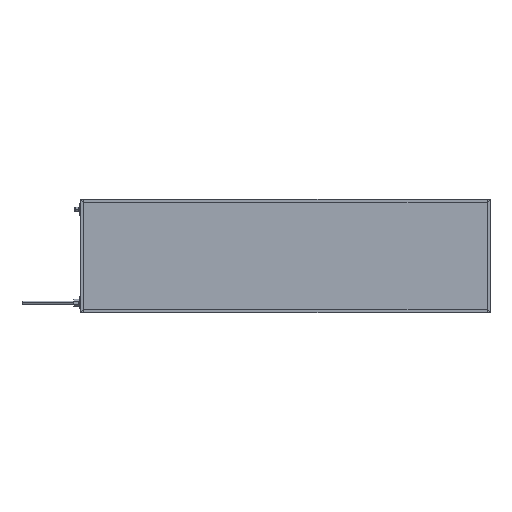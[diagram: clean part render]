
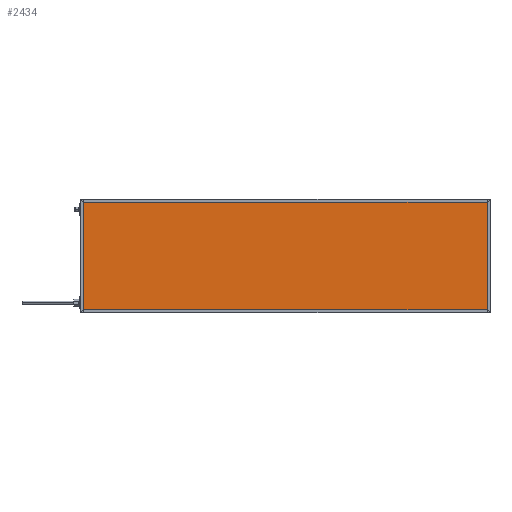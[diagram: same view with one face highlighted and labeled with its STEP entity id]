
A CAD part, top view. The second image highlights one B-rep face of the part: STEP entity #2434.
In plain terms, the highlighted planar face has unit normal (0, 0, 1).
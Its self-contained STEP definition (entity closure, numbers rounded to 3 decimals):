
#595 = VECTOR ( 'NONE', #906, 1000. ) ;
#906 = DIRECTION ( 'NONE',  ( 1., 0., 0. ) ) ;
#1165 = VECTOR ( 'NONE', #1296, 1000. ) ;
#1296 = DIRECTION ( 'NONE',  ( -1., 0., 0. ) ) ;
#1564 = EDGE_CURVE ( 'NONE', #12885, #11009, #15071, .T. ) ;
#1596 = CARTESIAN_POINT ( 'NONE',  ( 1096., 0., 41.85 ) ) ;
#2064 = AXIS2_PLACEMENT_3D ( 'NONE', #10594, #10861, #9404 ) ;
#2434 = ADVANCED_FACE ( 'NONE', ( #17534 ), #5193, .F. ) ;
#2701 = EDGE_LOOP ( 'NONE', ( #17950, #6144, #6789, #15862 ) ) ;
#3239 = DIRECTION ( 'NONE',  ( 0., 1., 0. ) ) ;
#3496 = VERTEX_POINT ( 'NONE', #5778 ) ;
#4063 = CARTESIAN_POINT ( 'NONE',  ( 0., 4., 41.85 ) ) ;
#4499 = EDGE_CURVE ( 'NONE', #13930, #12885, #15736, .T. ) ;
#5193 = PLANE ( 'NONE',  #2064 ) ;
#5429 = EDGE_CURVE ( 'NONE', #11009, #3496, #5725, .T. ) ;
#5725 = LINE ( 'NONE', #11199, #9528 ) ;
#5778 = CARTESIAN_POINT ( 'NONE',  ( 4., 4., 41.85 ) ) ;
#5915 = CARTESIAN_POINT ( 'NONE',  ( 1096., 4., 41.85 ) ) ;
#6144 = ORIENTED_EDGE ( 'NONE', *, *, #1564, .T. ) ;
#6789 = ORIENTED_EDGE ( 'NONE', *, *, #5429, .T. ) ;
#7883 = VECTOR ( 'NONE', #3239, 1000. ) ;
#9404 = DIRECTION ( 'NONE',  ( -1., 0., 0. ) ) ;
#9528 = VECTOR ( 'NONE', #10105, 1000. ) ;
#10105 = DIRECTION ( 'NONE',  ( 0., -1., 0. ) ) ;
#10594 = CARTESIAN_POINT ( 'NONE',  ( 0., 0., 41.85 ) ) ;
#10861 = DIRECTION ( 'NONE',  ( 0., 0., -1. ) ) ;
#11009 = VERTEX_POINT ( 'NONE', #11501 ) ;
#11199 = CARTESIAN_POINT ( 'NONE',  ( 4., 0., 41.85 ) ) ;
#11501 = CARTESIAN_POINT ( 'NONE',  ( 4., 296., 41.85 ) ) ;
#12885 = VERTEX_POINT ( 'NONE', #15741 ) ;
#13919 = LINE ( 'NONE', #4063, #595 ) ;
#13930 = VERTEX_POINT ( 'NONE', #5915 ) ;
#15071 = LINE ( 'NONE', #15262, #1165 ) ;
#15262 = CARTESIAN_POINT ( 'NONE',  ( 0., 296., 41.85 ) ) ;
#15736 = LINE ( 'NONE', #1596, #7883 ) ;
#15741 = CARTESIAN_POINT ( 'NONE',  ( 1096., 296., 41.85 ) ) ;
#15862 = ORIENTED_EDGE ( 'NONE', *, *, #18029, .T. ) ;
#17534 = FACE_OUTER_BOUND ( 'NONE', #2701, .T. ) ;
#17950 = ORIENTED_EDGE ( 'NONE', *, *, #4499, .T. ) ;
#18029 = EDGE_CURVE ( 'NONE', #3496, #13930, #13919, .T. ) ;
